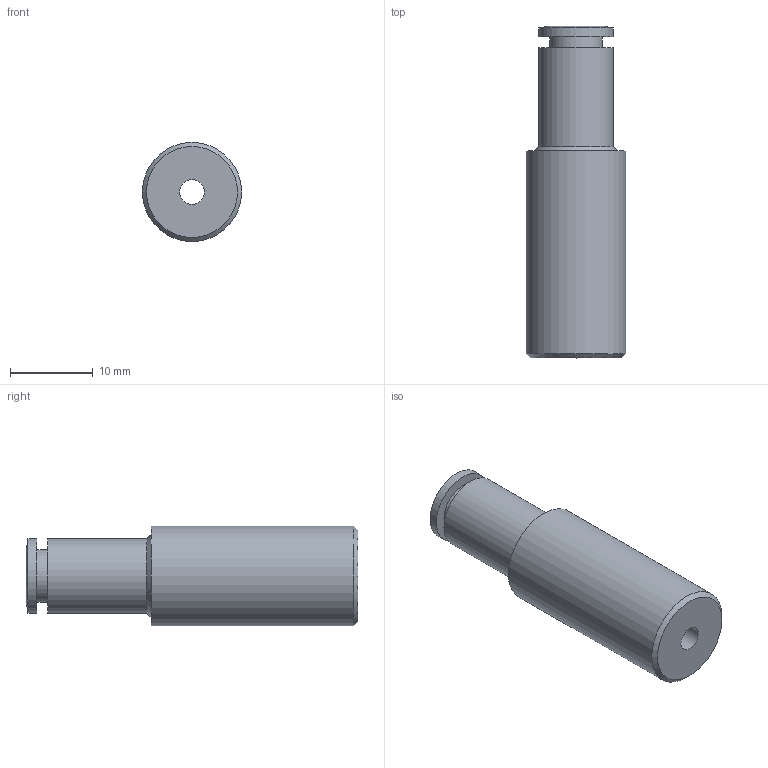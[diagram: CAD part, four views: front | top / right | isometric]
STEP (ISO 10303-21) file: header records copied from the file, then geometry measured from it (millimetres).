
FILE_DESCRIPTION((''),'2;1');
FILE_NAME('C:\Documents and Settings\rivolro1\Documenti\copia di Raccordi\PLASTICA\T08XXXX\T081204.stp','2007-10-30T17:05:17',('Rivolro1'),(''),'Autodesk Inventor 2008','Autodesk Inventor 2008','');
FILE_SCHEMA(('AUTOMOTIVE_DESIGN { 1 0 10303 214 1 1 1 1 }'));
Length unit declared in the file: millimetre
Products named in the file (1): T081204
Bounding box: 12 x 40.1 x 12 mm (x, y, z)
Volume: 3356.5 mm3; surface area: 2043.2 mm2
Topology: 1 solids, 1 shells, 15 faces, 24 edges, 15 vertices
Faces by surface type: plane 5, cylinder 5, cone 3, bspline 2
Full cylindrical faces by diameter (mm): 3 x1, 6.4 x1, 9 x2, 12 x1
Entity records: 363 total; most frequent: CARTESIAN_POINT 66, DIRECTION 58, ORIENTED_EDGE 30, EDGE_LOOP 30, AXIS2_PLACEMENT_3D 29, VERTEX_POINT 15, CIRCLE 15, EDGE_CURVE 15
